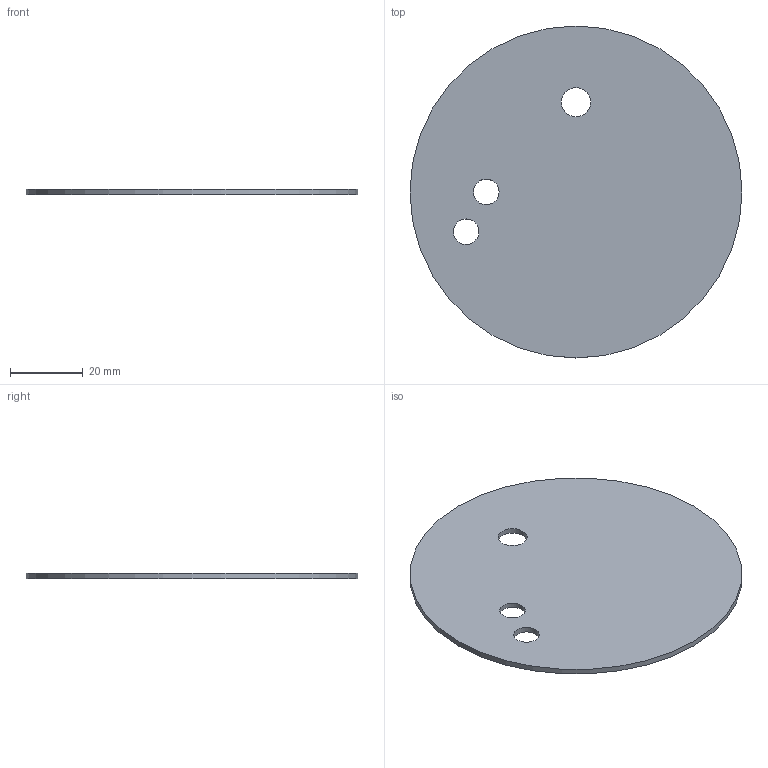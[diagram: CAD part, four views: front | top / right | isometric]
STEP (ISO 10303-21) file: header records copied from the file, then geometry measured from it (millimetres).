
FILE_DESCRIPTION(('Open CASCADE Model'),'2;1');
FILE_NAME('Open CASCADE Shape Model','2026-10-21T10:33:18',('Author'),( 'Open CASCADE'),'Open CASCADE STEP processor 7.9','Open CASCADE 7.9' ,'Unknown');
FILE_SCHEMA(('AUTOMOTIVE_DESIGN { 1 0 10303 214 1 1 1 1 }'));
Length unit declared in the file: millimetre
Products named in the file (1): Open CASCADE STEP translator 7.9 2
Bounding box: 91 x 91 x 1.5 mm (x, y, z)
Volume: 9565 mm3; surface area: 13285.8 mm2
Topology: 1 solids, 1 shells, 6 faces, 12 edges, 8 vertices
Faces by surface type: cylinder 4, plane 2
Full cylindrical faces by diameter (mm): 7 x2, 8 x1, 91 x1
Entity records: 360 total; most frequent: CARTESIAN_POINT 87, DIRECTION 52, ORIENTED_EDGE 24, PCURVE 24, DEFINITIONAL_REPRESENTATION 24, LINE 20, VECTOR 20, AXIS2_PLACEMENT_3D 15
